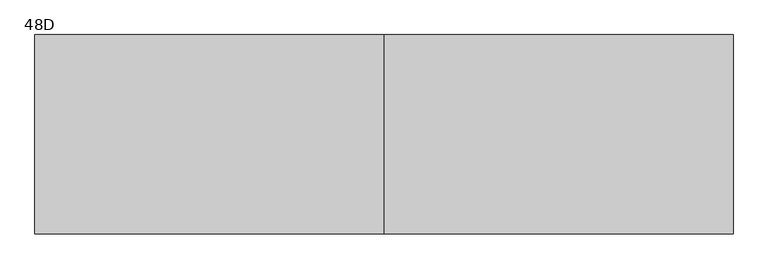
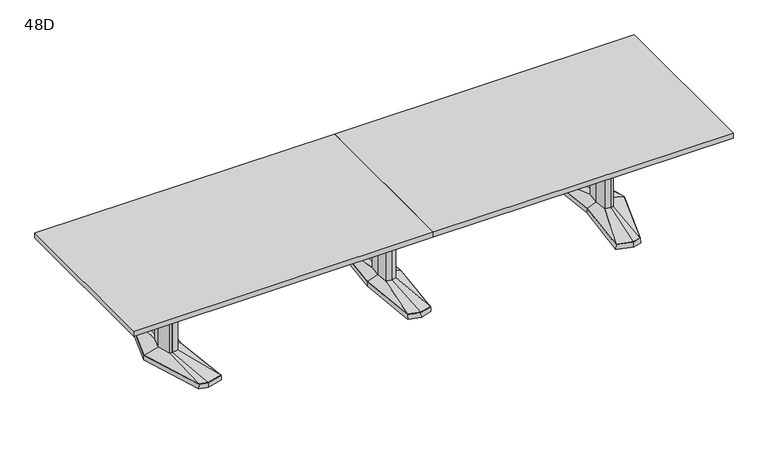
"""IFC4 building model written with IfcOpenShell, lengths in millimetres: furniture geometry, Coalesse_AM_Table_Conference_ETable2_Rectangular_14ft_AluminiumBase : 48D."""

from ifc_helpers import new_model, si_unit, frame, origin, place, context, project, spatial, polyline, outline, extrude, faceted_brep, source, transform, mapped, element, save
from ifc_brep_helpers import plane_surface, spline_surface, advanced_brep


def furniture_48d_d1b01ad5(model_context):
    return source(origin(), model_context, "Body", "SolidModel", [
        faceted_brep([(-81.2333791, -433.8053819, 38.1), (0.0, -455.556576, 38.1), (81.2333791, -433.8053819, 38.1), (119.0564774, 0.0, 38.1), (81.2333791, 433.8053819, 38.1), (0.0, 455.556576, 38.1), (-81.2333791, 433.8053819, 38.1), (-119.0564774, 0.0, 38.1), (-82.7182795, -435.0512063, 3.175), (-120.65, 0.0, 3.175), (-82.7182795, 435.0512063, 3.175), (0.0, 457.2, 3.175), (82.7182795, 435.0512063, 3.175), (120.65, 0.0, 3.175), (82.7182795, -435.0512063, 3.175), (0.0, -457.2, 3.175), (0.0, 429.2617927, 3.175), (-77.9676806, 408.3850278, 3.175), (-74.7019821, 382.9646737, 3.175), (0.0, 402.9670094, 3.175), (74.7019821, 382.9646737, 3.175), (77.9676806, 408.3850278, 3.175), (0.0, -429.2617927, 3.175), (77.9676806, -408.3850278, 3.175), (74.7019821, -382.9646737, 3.175), (0.0, -402.9670094, 3.175), (-74.7019821, -382.9646737, 3.175), (-77.9676806, -408.3850278, 3.175), (-71.8574262, 114.6326257, 3.175), (-82.5426076, 0.0, 3.175), (-71.8574262, -114.6326257, 3.175), (0.0, -133.8761372, 3.175), (71.8574262, -114.6326257, 3.175), (82.5426076, 0.0, 3.175), (71.8574262, 114.6326257, 3.175), (0.0, 133.8761372, 3.175), (0.0, 429.2617927, 0.0), (77.9676806, 408.3850278, 0.0), (74.7019821, 382.9646737, 0.0), (0.0, 402.9670094, 0.0), (-74.7019821, 382.9646737, 0.0), (-77.9676806, 408.3850278, 0.0), (0.0, -429.2617927, 0.0), (-77.9676806, -408.3850278, 0.0), (-74.7019821, -382.9646737, 0.0), (0.0, -402.9670094, 0.0), (74.7019821, -382.9646737, 0.0), (77.9676806, -408.3850278, 0.0), (-71.8574262, 114.6326257, 0.0), (0.0, 133.8761372, 0.0), (71.8574262, 114.6326257, 0.0), (82.5426076, 0.0, 0.0), (71.8574262, -114.6326257, 0.0), (0.0, -133.8761372, 0.0), (-71.8574262, -114.6326257, 0.0), (-82.5426076, 0.0, 0.0)], [[[0, 1, 2, 3, 4, 5, 6, 7]], [[8, 9, 10, 11, 12, 13, 14, 15], [16, 17, 18, 19, 20, 21], [22, 23, 24, 25, 26, 27], [28, 29, 30, 31, 32, 33, 34, 35]], [[1, 0, 8, 15]], [[2, 1, 15, 14]], [[3, 2, 14, 13]], [[4, 3, 13, 12]], [[5, 4, 12, 11]], [[6, 5, 11, 10]], [[7, 6, 10, 9]], [[0, 7, 9, 8]], [[36, 37, 38, 39, 40, 41]], [[42, 43, 44, 45, 46, 47]], [[48, 49, 50, 51, 52, 53, 54, 55]], [[36, 41, 17, 16]], [[41, 40, 18, 17]], [[40, 39, 19, 18]], [[39, 38, 20, 19]], [[38, 37, 21, 20]], [[37, 36, 16, 21]], [[42, 47, 23, 22]], [[47, 46, 24, 23]], [[46, 45, 25, 24]], [[45, 44, 26, 25]], [[44, 43, 27, 26]], [[43, 42, 22, 27]], [[48, 55, 29, 28]], [[55, 54, 30, 29]], [[54, 53, 31, 30]], [[53, 52, 32, 31]], [[52, 51, 33, 32]], [[51, 50, 34, 33]], [[50, 49, 35, 34]], [[49, 48, 28, 35]]]),
        faceted_brep([(-36.3832834, 84.6900825, 698.5), (-44.2774487, 0.0, 698.5), (-36.3832834, -84.6900825, 698.5), (0.0, -94.4335728, 698.5), (36.3832834, -84.6900825, 698.5), (44.2774487, 0.0, 698.5), (36.3832834, 84.6900825, 698.5), (0.0, 94.4335728, 698.5), (-36.3832834, 84.6900825, 63.5), (0.0, 94.4335728, 63.5), (36.3832834, 84.6900825, 63.5), (44.2774487, 0.0, 63.5), (36.3832834, -84.6900825, 63.5), (0.0, -94.4335728, 63.5), (-36.3832834, -84.6900825, 63.5), (-44.2774487, 0.0, 63.5)], [[[0, 1, 2, 3, 4, 5, 6, 7]], [[8, 9, 10, 11, 12, 13, 14, 15]], [[1, 0, 8, 15]], [[2, 1, 15, 14]], [[3, 2, 14, 13]], [[4, 3, 13, 12]], [[5, 4, 12, 11]], [[6, 5, 11, 10]], [[7, 6, 10, 9]], [[0, 7, 9, 8]]]),
        advanced_brep(
        [(-36.3832834, 84.6900825, 63.5), (-44.2774487, 0.0, 63.5), (-36.3832834, -84.6900825, 63.5), (0.0, -94.4335728, 63.5), (36.3832834, -84.6900825, 63.5), (44.2774487, 0.0, 63.5), (36.3832834, 84.6900825, 63.5), (0.0, 94.4335728, 63.5), (-81.2333791, 433.8053819, 38.1), (0.0, 455.556576, 38.1), (81.2333791, 433.8053819, 38.1), (119.0564774, 0.0, 38.1), (81.2333791, -433.8053819, 38.1), (0.0, -455.556576, 38.1), (-81.2333791, -433.8053819, 38.1), (-119.0564774, 0.0, 38.1)],
        [
            (0, 1),
            (1, 2),
            (2, 3),
            (3, 4),
            (4, 5),
            (5, 6),
            (6, 7),
            (7, 0),
            (8, 9),
            (9, 10),
            (10, 11),
            (11, 12),
            (12, 13),
            (13, 14),
            (14, 15),
            (15, 8),
            (15, 1),
            (0, 8),
            (14, 2),
            (13, 3),
            (12, 4),
            (11, 5),
            (10, 6),
            (9, 7),
        ],
        [
            plane_surface(frame((0.0, 0.0, 63.5), z_axis=(0.0, 0.0, 1.0000000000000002), x_axis=(-0.9659615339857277, -0.25868574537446, 0.0))),
            plane_surface(frame((0.0, 0.0, 38.1), z_axis=(0.0, 0.0, -1.0000000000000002), x_axis=(-0.9659615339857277, -0.25868574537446, 0.0))),
            spline_surface(1, 1, [[(-81.2333791, 433.8053819, 38.1), (-36.3832834, 84.6900825, 63.5)], [(-119.0564774, 0.0, 38.1), (-44.2774487, 0.0, 63.5)]], [2, 2], [2, 2], [0.0, 1.0], [0.0, 1.0]),
            spline_surface(1, 1, [[(-119.0564774, 0.0, 38.1), (-44.2774487, 0.0, 63.5)], [(-81.2333791, -433.8053819, 38.1), (-36.3832834, -84.6900825, 63.5)]], [2, 2], [2, 2], [0.0, 1.0], [0.0, 1.0]),
            spline_surface(1, 1, [[(-81.2333791, -433.8053819, 38.1), (-36.3832834, -84.6900825, 63.5)], [(0.0, -455.556576, 38.1), (0.0, -94.4335728, 63.5)]], [2, 2], [2, 2], [0.0, 1.0], [0.0, 1.0]),
            spline_surface(1, 1, [[(0.0, -455.556576, 38.1), (0.0, -94.4335728, 63.5)], [(81.2333791, -433.8053819, 38.1), (36.3832834, -84.6900825, 63.5)]], [2, 2], [2, 2], [0.0, 1.0], [0.0, 1.0]),
            spline_surface(1, 1, [[(81.2333791, -433.8053819, 38.1), (36.3832834, -84.6900825, 63.5)], [(119.0564774, 0.0, 38.1), (44.2774487, 0.0, 63.5)]], [2, 2], [2, 2], [0.0, 1.0], [0.0, 1.0]),
            spline_surface(1, 1, [[(119.0564774, 0.0, 38.1), (44.2774487, 0.0, 63.5)], [(81.2333791, 433.8053819, 38.1), (36.3832834, 84.6900825, 63.5)]], [2, 2], [2, 2], [0.0, 1.0], [0.0, 1.0]),
            spline_surface(1, 1, [[(81.2333791, 433.8053819, 38.1), (36.3832834, 84.6900825, 63.5)], [(0.0, 455.556576, 38.1), (0.0, 94.4335728, 63.5)]], [2, 2], [2, 2], [0.0, 1.0], [0.0, 1.0]),
            spline_surface(1, 1, [[(0.0, 455.556576, 38.1), (0.0, 94.4335728, 63.5)], [(-81.2333791, 433.8053819, 38.1), (-36.3832834, 84.6900825, 63.5)]], [2, 2], [2, 2], [0.0, 1.0], [0.0, 1.0]),
        ],
        [
            (0, [[1, 2, 3, 4, 5, 6, 7, 8]]),
            (1, [[9, 10, 11, 12, 13, 14, 15, 16]]),
            (2, [[-16, 17, -1, 18]]),
            (3, [[-15, 19, -2, -17]]),
            (4, [[-14, 20, -3, -19]]),
            (5, [[-13, 21, -4, -20]]),
            (6, [[-12, 22, -5, -21]]),
            (7, [[-11, 23, -6, -22]]),
            (8, [[-10, 24, -7, -23]]),
            (9, [[-9, -18, -8, -24]]),
        ],
    ),
        faceted_brep([(1515.4306835, 455.5848221, 38.1), (1405.8531277, 426.2263816, 38.1), (1447.0163717, 0.0, 38.1), (1405.8531277, -426.2263816, 38.1), (1515.4306835, -455.5848221, 38.1), (1571.5570396, -440.5478297, 38.1), (1708.8684269, 0.0, 38.1), (1571.5570396, 440.5478297, 38.1), (1515.4306754, 457.2283104, 3.175), (1572.8124472, 441.8549756, 3.175), (1710.53125, 0.0, 3.175), (1572.8124472, -441.8549756, 3.175), (1515.4306754, -457.2283104, 3.175), (1404.14375, -427.4118891, 3.175), (1445.4214856, 0.0, 3.175), (1404.14375, 427.4118891, 3.175), (1519.020115, 428.3273875, 3.175), (1413.9718228, 402.1057253, 3.175), (1422.090518, 377.985069, 3.175), (1522.6095466, 401.0699529, 3.175), (1573.1691725, 387.524361, 3.175), (1572.3631061, 414.0360954, 3.175), (1519.020115, -428.3273875, 3.175), (1572.3631061, -414.0360954, 3.175), (1573.1691725, -387.524361, 3.175), (1522.6095466, -401.0699529, 3.175), (1422.090518, -377.985069, 3.175), (1413.9718228, -402.1057253, 3.175), (1645.6153621, 0.0, 3.175), (1613.3459611, 120.4193755, 3.175), (1564.6987222, 133.471665, 3.175), (1484.8180526, 119.4176561, 3.175), (1473.6868466, 0.0, 3.175), (1484.8180526, -119.4176561, 3.175), (1564.6987222, -133.471665, 3.175), (1613.3459611, -120.4193755, 3.175), (1519.020115, 428.3273875, 0.0), (1572.3631061, 414.0360954, 0.0), (1573.1691725, 387.524361, 0.0), (1522.6095466, 401.0699529, 0.0), (1422.090518, 377.985069, 0.0), (1413.9718228, 402.1057253, 0.0), (1519.020115, -428.3273875, 0.0), (1413.9718228, -402.1057253, 0.0), (1422.090518, -377.985069, 0.0), (1522.6095466, -401.0699529, 0.0), (1573.1691725, -387.524361, 0.0), (1572.3631061, -414.0360954, 0.0), (1645.6153621, 0.0, 0.0), (1613.3459611, -120.4193755, 0.0), (1564.6987222, -133.471665, 0.0), (1484.8180526, -119.4176561, 0.0), (1473.6868466, 0.0, 0.0), (1484.8180526, 119.4176561, 0.0), (1564.6987222, 133.471665, 0.0), (1613.3459611, 120.4193755, 0.0)], [[[0, 1, 2, 3, 4, 5, 6, 7]], [[8, 9, 10, 11, 12, 13, 14, 15], [16, 17, 18, 19, 20, 21], [22, 23, 24, 25, 26, 27], [28, 29, 30, 31, 32, 33, 34, 35]], [[7, 9, 8, 0]], [[6, 10, 9, 7]], [[5, 11, 10, 6]], [[4, 12, 11, 5]], [[3, 13, 12, 4]], [[2, 14, 13, 3]], [[1, 15, 14, 2]], [[0, 8, 15, 1]], [[36, 37, 38, 39, 40, 41]], [[42, 43, 44, 45, 46, 47]], [[48, 49, 50, 51, 52, 53, 54, 55]], [[36, 16, 21, 37]], [[37, 21, 20, 38]], [[38, 20, 19, 39]], [[39, 19, 18, 40]], [[40, 18, 17, 41]], [[41, 17, 16, 36]], [[42, 22, 27, 43]], [[43, 27, 26, 44]], [[44, 26, 25, 45]], [[45, 25, 24, 46]], [[46, 24, 23, 47]], [[47, 23, 22, 42]], [[48, 28, 35, 49]], [[49, 35, 34, 50]], [[50, 34, 33, 51]], [[51, 33, 32, 52]], [[52, 32, 31, 53]], [[53, 31, 30, 54]], [[54, 30, 29, 55]], [[55, 29, 28, 48]]]),
        faceted_brep([(1606.1710836, 0.0, 698.5), (1582.2358546, 89.3188359, 698.5), (1565.3824984, 93.8406728, 698.5), (1562.9826511, 94.4845635, 698.5), (1520.055146, 86.9320037, 698.5), (1511.9520056, 0.0, 698.5), (1520.055146, -86.9320037, 698.5), (1562.9826511, -94.4845635, 698.5), (1565.3824984, -93.8406728, 698.5), (1582.2358546, -89.3188359, 698.5), (1606.1710836, 0.0, 63.5), (1582.2358546, -89.3188359, 63.5), (1565.3824984, -93.8406728, 63.5), (1562.9826511, -94.4845635, 63.5), (1520.055146, -86.9320037, 63.5), (1511.9520056, 0.0, 63.5), (1520.055146, 86.9320037, 63.5), (1562.9826511, 94.4845635, 63.5), (1565.3824984, 93.8406728, 63.5), (1582.2358546, 89.3188359, 63.5)], [[[0, 1, 2, 3, 4, 5, 6, 7, 8, 9]], [[10, 11, 12, 13, 14, 15, 16, 17, 18, 19]], [[9, 11, 10, 0]], [[8, 12, 11, 9]], [[7, 13, 12, 8]], [[6, 14, 13, 7]], [[5, 15, 14, 6]], [[4, 16, 15, 5]], [[3, 17, 16, 4]], [[2, 18, 17, 3]], [[1, 19, 18, 2]], [[0, 10, 19, 1]]]),
        advanced_brep(
        [(1562.9826511, 94.4845635, 63.5), (1520.055146, 86.9320037, 63.5), (1511.9520056, 0.0, 63.5), (1520.055146, -86.9320037, 63.5), (1562.9826511, -94.4845635, 63.5), (1582.2358546, -89.3188359, 63.5), (1606.1710836, 0.0, 63.5), (1582.2358546, 89.3188359, 63.5), (1515.4306835, 455.5848221, 38.1), (1571.5570396, 440.5478297, 38.1), (1708.8684269, 0.0, 38.1), (1571.5570396, -440.5478297, 38.1), (1515.4306835, -455.5848221, 38.1), (1405.8531277, -426.2263816, 38.1), (1447.0163717, 0.0, 38.1), (1405.8531277, 426.2263816, 38.1)],
        [
            (0, 1),
            (1, 2),
            (2, 3),
            (3, 4),
            (4, 5),
            (5, 6),
            (6, 7),
            (7, 0),
            (8, 9),
            (9, 10),
            (10, 11),
            (11, 12),
            (12, 13),
            (13, 14),
            (14, 15),
            (15, 8),
            (8, 0),
            (7, 9),
            (6, 10),
            (5, 11),
            (4, 12),
            (3, 13),
            (2, 14),
            (1, 15),
        ],
        [
            plane_surface(frame((1556.0837991, 0.0, 63.5), z_axis=(0.0, 0.0, 1.0), x_axis=(-0.25884244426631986, -0.9659195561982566, 0.0))),
            plane_surface(frame((1517.6958125, 0.0, 38.1), z_axis=(0.0, 0.0, -1.0), x_axis=(-0.25884244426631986, -0.9659195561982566, 0.0))),
            spline_surface(1, 1, [[(1515.4306835, 455.5848221, 38.1), (1571.5570396, 440.5478297, 38.1)], [(1562.9826511, 94.4845635, 63.5), (1582.2358546, 89.3188359, 63.5)]], [2, 2], [2, 2], [0.0, 1.0], [0.0, 1.0]),
            spline_surface(1, 1, [[(1571.5570396, 440.5478297, 38.1), (1708.8684269, 0.0, 38.1)], [(1582.2358546, 89.3188359, 63.5), (1606.1710836, 0.0, 63.5)]], [2, 2], [2, 2], [0.0, 1.0], [0.0, 1.0]),
            spline_surface(1, 1, [[(1708.8684269, 0.0, 38.1), (1571.5570396, -440.5478297, 38.1)], [(1606.1710836, 0.0, 63.5), (1582.2358546, -89.3188359, 63.5)]], [2, 2], [2, 2], [0.0, 1.0], [0.0, 1.0]),
            spline_surface(1, 1, [[(1571.5570396, -440.5478297, 38.1), (1515.4306835, -455.5848221, 38.1)], [(1582.2358546, -89.3188359, 63.5), (1562.9826511, -94.4845635, 63.5)]], [2, 2], [2, 2], [0.0, 1.0], [0.0, 1.0]),
            spline_surface(1, 1, [[(1515.4306835, -455.5848221, 38.1), (1405.8531277, -426.2263816, 38.1)], [(1562.9826511, -94.4845635, 63.5), (1520.055146, -86.9320037, 63.5)]], [2, 2], [2, 2], [0.0, 1.0], [0.0, 1.0]),
            spline_surface(1, 1, [[(1405.8531277, -426.2263816, 38.1), (1447.0163717, 0.0, 38.1)], [(1520.055146, -86.9320037, 63.5), (1511.9520056, 0.0, 63.5)]], [2, 2], [2, 2], [0.0, 1.0], [0.0, 1.0]),
            spline_surface(1, 1, [[(1447.0163717, 0.0, 38.1), (1405.8531277, 426.2263816, 38.1)], [(1511.9520056, 0.0, 63.5), (1520.055146, 86.9320037, 63.5)]], [2, 2], [2, 2], [0.0, 1.0], [0.0, 1.0]),
            spline_surface(1, 1, [[(1405.8531277, 426.2263816, 38.1), (1515.4306835, 455.5848221, 38.1)], [(1520.055146, 86.9320037, 63.5), (1562.9826511, 94.4845635, 63.5)]], [2, 2], [2, 2], [0.0, 1.0], [0.0, 1.0]),
        ],
        [
            (0, [[1, 2, 3, 4, 5, 6, 7, 8]]),
            (1, [[9, 10, 11, 12, 13, 14, 15, 16]]),
            (2, [[17, -8, 18, -9]]),
            (3, [[-18, -7, 19, -10]]),
            (4, [[-19, -6, 20, -11]]),
            (5, [[-20, -5, 21, -12]]),
            (6, [[-21, -4, 22, -13]]),
            (7, [[-22, -3, 23, -14]]),
            (8, [[-23, -2, 24, -15]]),
            (9, [[-24, -1, -17, -16]]),
        ],
    ),
        faceted_brep([(-1515.4306835, 455.5848221, 38.1), (-1571.5570396, 440.5478297, 38.1), (-1708.8684269, 0.0, 38.1), (-1571.5570396, -440.5478297, 38.1), (-1515.4306835, -455.5848221, 38.1), (-1405.8531277, -426.2263816, 38.1), (-1447.0163717, 0.0, 38.1), (-1405.8531277, 426.2263816, 38.1), (-1515.4306754, 457.2283104, 3.175), (-1404.14375, 427.4118891, 3.175), (-1445.4214856, 0.0, 3.175), (-1404.14375, -427.4118891, 3.175), (-1515.4306754, -457.2283104, 3.175), (-1572.8124472, -441.8549756, 3.175), (-1710.53125, 0.0, 3.175), (-1572.8124472, 441.8549756, 3.175), (-1519.020115, 428.3273875, 3.175), (-1572.3631061, 414.0360954, 3.175), (-1573.1691725, 387.524361, 3.175), (-1522.6095466, 401.0699529, 3.175), (-1422.090518, 377.985069, 3.175), (-1413.9718228, 402.1057253, 3.175), (-1519.020115, -428.3273875, 3.175), (-1413.9718228, -402.1057253, 3.175), (-1422.090518, -377.985069, 3.175), (-1522.6095466, -401.0699529, 3.175), (-1573.1691725, -387.524361, 3.175), (-1572.3631061, -414.0360954, 3.175), (-1645.6153621, 0.0, 3.175), (-1613.3459611, -120.4193755, 3.175), (-1564.6987222, -133.471665, 3.175), (-1484.8180526, -119.4176561, 3.175), (-1473.6868466, 0.0, 3.175), (-1484.8180526, 119.4176561, 3.175), (-1564.6987222, 133.471665, 3.175), (-1613.3459611, 120.4193755, 3.175), (-1519.020115, 428.3273875, 0.0), (-1413.9718228, 402.1057253, 0.0), (-1422.090518, 377.985069, 0.0), (-1522.6095466, 401.0699529, 0.0), (-1573.1691725, 387.524361, 0.0), (-1572.3631061, 414.0360954, 0.0), (-1519.020115, -428.3273875, 0.0), (-1572.3631061, -414.0360954, 0.0), (-1573.1691725, -387.524361, 0.0), (-1522.6095466, -401.0699529, 0.0), (-1422.090518, -377.985069, 0.0), (-1413.9718228, -402.1057253, 0.0), (-1645.6153621, 0.0, 0.0), (-1613.3459611, 120.4193755, 0.0), (-1564.6987222, 133.471665, 0.0), (-1484.8180526, 119.4176561, 0.0), (-1473.6868466, 0.0, 0.0), (-1484.8180526, -119.4176561, 0.0), (-1564.6987222, -133.471665, 0.0), (-1613.3459611, -120.4193755, 0.0)], [[[0, 1, 2, 3, 4, 5, 6, 7]], [[8, 9, 10, 11, 12, 13, 14, 15], [16, 17, 18, 19, 20, 21], [22, 23, 24, 25, 26, 27], [28, 29, 30, 31, 32, 33, 34, 35]], [[1, 0, 8, 15]], [[2, 1, 15, 14]], [[3, 2, 14, 13]], [[4, 3, 13, 12]], [[5, 4, 12, 11]], [[6, 5, 11, 10]], [[7, 6, 10, 9]], [[0, 7, 9, 8]], [[36, 37, 38, 39, 40, 41]], [[42, 43, 44, 45, 46, 47]], [[48, 49, 50, 51, 52, 53, 54, 55]], [[36, 41, 17, 16]], [[41, 40, 18, 17]], [[40, 39, 19, 18]], [[39, 38, 20, 19]], [[38, 37, 21, 20]], [[37, 36, 16, 21]], [[42, 47, 23, 22]], [[47, 46, 24, 23]], [[46, 45, 25, 24]], [[45, 44, 26, 25]], [[44, 43, 27, 26]], [[43, 42, 22, 27]], [[48, 55, 29, 28]], [[55, 54, 30, 29]], [[54, 53, 31, 30]], [[53, 52, 32, 31]], [[52, 51, 33, 32]], [[51, 50, 34, 33]], [[50, 49, 35, 34]], [[49, 48, 28, 35]]]),
        faceted_brep([(-1606.1710836, 0.0, 698.5), (-1582.2358546, -89.3188359, 698.5), (-1565.3824984, -93.8406728, 698.5), (-1562.9826511, -94.4845635, 698.5), (-1520.055146, -86.9320037, 698.5), (-1511.9520056, 0.0, 698.5), (-1520.055146, 86.9320037, 698.5), (-1562.9826511, 94.4845635, 698.5), (-1565.3824984, 93.8406728, 698.5), (-1582.2358546, 89.3188359, 698.5), (-1606.1710836, 0.0, 63.5), (-1582.2358546, 89.3188359, 63.5), (-1565.3824984, 93.8406728, 63.5), (-1562.9826511, 94.4845635, 63.5), (-1520.055146, 86.9320037, 63.5), (-1511.9520056, 0.0, 63.5), (-1520.055146, -86.9320037, 63.5), (-1562.9826511, -94.4845635, 63.5), (-1565.3824984, -93.8406728, 63.5), (-1582.2358546, -89.3188359, 63.5)], [[[0, 1, 2, 3, 4, 5, 6, 7, 8, 9]], [[10, 11, 12, 13, 14, 15, 16, 17, 18, 19]], [[1, 0, 10, 19]], [[2, 1, 19, 18]], [[3, 2, 18, 17]], [[4, 3, 17, 16]], [[5, 4, 16, 15]], [[6, 5, 15, 14]], [[7, 6, 14, 13]], [[8, 7, 13, 12]], [[9, 8, 12, 11]], [[0, 9, 11, 10]]]),
        advanced_brep(
        [(-1562.9826511, 94.4845635, 63.5), (-1582.2358546, 89.3188359, 63.5), (-1606.1710836, 0.0, 63.5), (-1582.2358546, -89.3188359, 63.5), (-1562.9826511, -94.4845635, 63.5), (-1520.055146, -86.9320037, 63.5), (-1511.9520056, 0.0, 63.5), (-1520.055146, 86.9320037, 63.5), (-1515.4306835, 455.5848221, 38.1), (-1405.8531277, 426.2263816, 38.1), (-1447.0163717, 0.0, 38.1), (-1405.8531277, -426.2263816, 38.1), (-1515.4306835, -455.5848221, 38.1), (-1571.5570396, -440.5478297, 38.1), (-1708.8684269, 0.0, 38.1), (-1571.5570396, 440.5478297, 38.1)],
        [
            (0, 1),
            (1, 2),
            (2, 3),
            (3, 4),
            (4, 5),
            (5, 6),
            (6, 7),
            (7, 0),
            (8, 9),
            (9, 10),
            (10, 11),
            (11, 12),
            (12, 13),
            (13, 14),
            (14, 15),
            (15, 8),
            (15, 1),
            (0, 8),
            (14, 2),
            (13, 3),
            (12, 4),
            (11, 5),
            (10, 6),
            (9, 7),
        ],
        [
            plane_surface(frame((-1556.0837991, 0.0, 63.5), z_axis=(0.0, 0.0, 1.0), x_axis=(0.25884244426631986, -0.9659195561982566, 0.0))),
            plane_surface(frame((-1517.6958125, 0.0, 38.1), z_axis=(0.0, 0.0, -1.0), x_axis=(0.25884244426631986, -0.9659195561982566, 0.0))),
            spline_surface(1, 1, [[(-1515.4306835, 455.5848221, 38.1), (-1562.9826511, 94.4845635, 63.5)], [(-1571.5570396, 440.5478297, 38.1), (-1582.2358546, 89.3188359, 63.5)]], [2, 2], [2, 2], [0.0, 1.0], [0.0, 1.0]),
            spline_surface(1, 1, [[(-1571.5570396, 440.5478297, 38.1), (-1582.2358546, 89.3188359, 63.5)], [(-1708.8684269, 0.0, 38.1), (-1606.1710836, 0.0, 63.5)]], [2, 2], [2, 2], [0.0, 1.0], [0.0, 1.0]),
            spline_surface(1, 1, [[(-1708.8684269, 0.0, 38.1), (-1606.1710836, 0.0, 63.5)], [(-1571.5570396, -440.5478297, 38.1), (-1582.2358546, -89.3188359, 63.5)]], [2, 2], [2, 2], [0.0, 1.0], [0.0, 1.0]),
            spline_surface(1, 1, [[(-1571.5570396, -440.5478297, 38.1), (-1582.2358546, -89.3188359, 63.5)], [(-1515.4306835, -455.5848221, 38.1), (-1562.9826511, -94.4845635, 63.5)]], [2, 2], [2, 2], [0.0, 1.0], [0.0, 1.0]),
            spline_surface(1, 1, [[(-1515.4306835, -455.5848221, 38.1), (-1562.9826511, -94.4845635, 63.5)], [(-1405.8531277, -426.2263816, 38.1), (-1520.055146, -86.9320037, 63.5)]], [2, 2], [2, 2], [0.0, 1.0], [0.0, 1.0]),
            spline_surface(1, 1, [[(-1405.8531277, -426.2263816, 38.1), (-1520.055146, -86.9320037, 63.5)], [(-1447.0163717, 0.0, 38.1), (-1511.9520056, 0.0, 63.5)]], [2, 2], [2, 2], [0.0, 1.0], [0.0, 1.0]),
            spline_surface(1, 1, [[(-1447.0163717, 0.0, 38.1), (-1511.9520056, 0.0, 63.5)], [(-1405.8531277, 426.2263816, 38.1), (-1520.055146, 86.9320037, 63.5)]], [2, 2], [2, 2], [0.0, 1.0], [0.0, 1.0]),
            spline_surface(1, 1, [[(-1405.8531277, 426.2263816, 38.1), (-1520.055146, 86.9320037, 63.5)], [(-1515.4306835, 455.5848221, 38.1), (-1562.9826511, 94.4845635, 63.5)]], [2, 2], [2, 2], [0.0, 1.0], [0.0, 1.0]),
        ],
        [
            (0, [[1, 2, 3, 4, 5, 6, 7, 8]]),
            (1, [[9, 10, 11, 12, 13, 14, 15, 16]]),
            (2, [[-16, 17, -1, 18]]),
            (3, [[-15, 19, -2, -17]]),
            (4, [[-14, 20, -3, -19]]),
            (5, [[-13, 21, -4, -20]]),
            (6, [[-12, 22, -5, -21]]),
            (7, [[-11, 23, -6, -22]]),
            (8, [[-10, 24, -7, -23]]),
            (9, [[-9, -18, -8, -24]]),
        ],
    ),
        extrude(outline(polyline([(96.8375, 698.5), (103.1875, 698.5), (103.1875, 476.25), (-103.1875, 476.25), (-103.1875, 698.5), (-96.8375, 698.5), (-96.8375, 482.6), (96.8375, 482.6), (96.8375, 698.5)])), frame((44.2774487, 0.0, 0.0), z_axis=(1.0, 0.0, 0.0), x_axis=(0.0, 1.0, 0.0)), (0.0, 0.0, 1.0), 1467.8163013),
        extrude(outline(polyline([(2133.6, 609.6), (2133.6, -609.6), (0.0, -609.6), (0.0, 609.6), (2133.6, 609.6)])), frame((0.0, 0.0, 698.5), z_axis=(0.0, 0.0, 1.0), x_axis=(1.0, 0.0, 0.0)), (0.0, 0.0, 1.0), 38.1),
        extrude(outline(polyline([(0.0, 609.6), (0.0, -609.6), (-2133.6, -609.6), (-2133.6, 609.6), (0.0, 609.6)])), frame((0.0, 0.0, 698.5), z_axis=(0.0, 0.0, 1.0), x_axis=(1.0, 0.0, 0.0)), (0.0, 0.0, 1.0), 38.1),
        extrude(outline(polyline([(96.8375, 698.5), (103.1875, 698.5), (103.1875, 476.25), (-103.1875, 476.25), (-103.1875, 698.5), (-96.8375, 698.5), (-96.8375, 482.6), (96.8375, 482.6), (96.8375, 698.5)])), frame((-1512.09375, 0.0, 0.0), z_axis=(1.0, 0.0, 0.0), x_axis=(0.0, 1.0, 0.0)), (0.0, 0.0, 1.0), 1467.8163013),
    ])


if __name__ == "__main__":
    model = new_model("IFC4")
    model_context = context("Model", 3, world=origin())
    ifc_project = project(units=[si_unit("LENGTHUNIT", "METRE", prefix="MILLI")], contexts=[model_context])
    site = spatial("IfcSite", under=ifc_project)
    building = spatial("IfcBuilding", under=site)
    placement = place(None, origin())
    furniture_48d_shape = furniture_48d_d1b01ad5(model_context)
    element("IfcFurniture", 1, ObjectType="Coalesse_AM_Table_Conference_ETable2_Rectangular_14ft_AluminiumBase : 48D", at=placement, inside=building, context=model_context, shape_type="MappedRepresentation", body=[
        mapped(furniture_48d_shape, transform((0.0, 0.0, 0.0), x_axis=(1.0, 0.0, 0.0), y_axis=(0.0, 1.0, 0.0), z_axis=(0.0, 0.0, 1.0))),
    ])
    save(model, "model.ifc")
